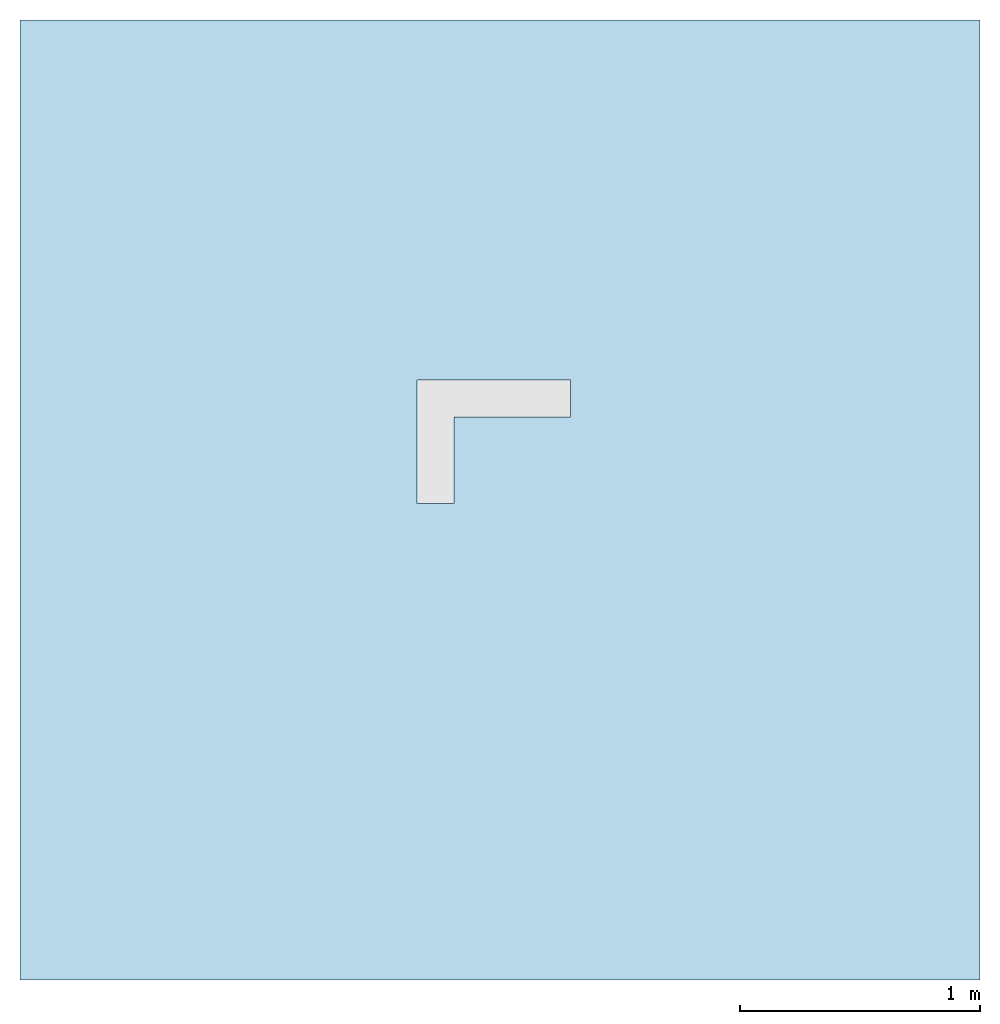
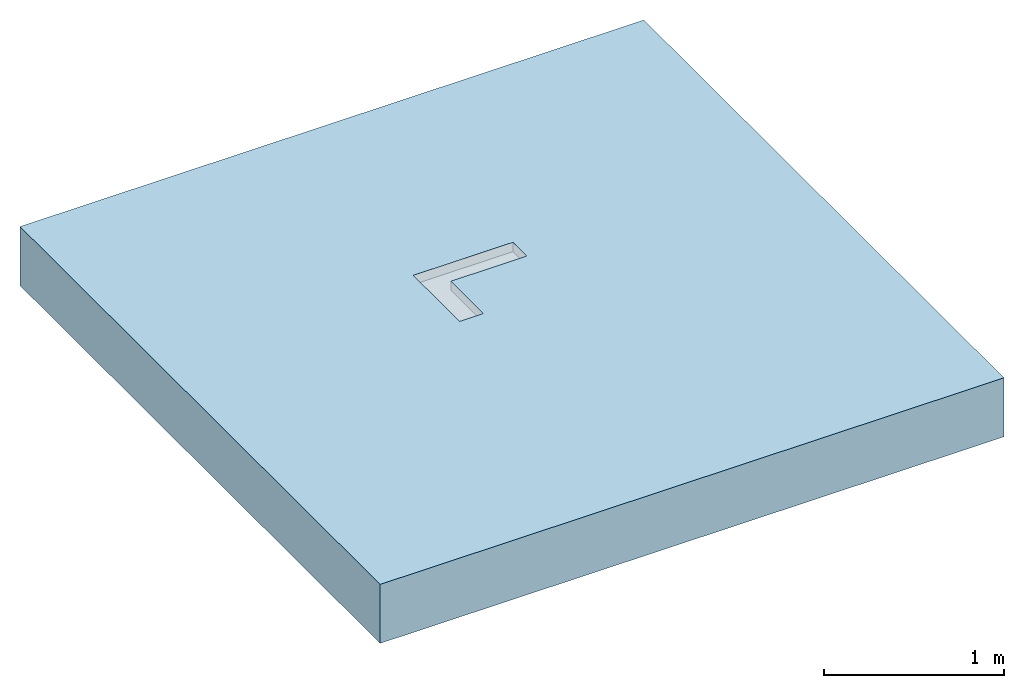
# One storey, incomplete: 1 slab, 1 opening.
"""IFC2X3 building model written with IfcOpenShell, lengths in millimetres."""

from ifc_helpers import new_model, entity, si_unit, converted_unit, direction, frame, frame_2d, origin, place, context, subcontext, project, spatial, polyline, rectangle, outline, extrude, material, layer, layer_set, layer_usage, element, save


model = new_model("IFC2X3")

# Units and contexts
model_context = context("Model", 3, precision=1e-06, world=origin(), true_north=direction((2.0, 6.12303176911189e-17, 1.0)))
context_of_model = context(None, 3, precision=1e-06, world=origin(), true_north=direction((2.0, 6.12303176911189e-17, 1.0)))
body_context = subcontext(model_context, "Body", "Model", "MODEL_VIEW")
ifc_project = project(units=[si_unit("LENGTHUNIT", "METRE", prefix="MILLI"), si_unit("AREAUNIT", "SQUARE_METRE", prefix="MILLI"), si_unit("VOLUMEUNIT", "CUBIC_METRE", prefix="MILLI"), converted_unit("PLANEANGLEUNIT", "DEGREE", entity("IfcRatioMeasure", 0.0174532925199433), si_unit("PLANEANGLEUNIT", "RADIAN"), dimensions=[0, 0, 0, 0, 0, 0, 0]), si_unit("TIMEUNIT", "SECOND")], contexts=[model_context, context_of_model])

# Site, building, storey
site_placement = place(None, origin())
site = spatial("IfcSite", under=ifc_project, at=site_placement, Name="Default", CompositionType="ELEMENT")
building_placement = place(site_placement, origin())
building = spatial("IfcBuilding", under=site, at=building_placement, CompositionType="ELEMENT")
storey_placement = place(building_placement, origin())
storey = spatial("IfcBuildingStorey", under=building, at=storey_placement, Name="Level 1", CompositionType="ELEMENT", Elevation=0.0)

# Slab, opening
ifc_material = material(Name="Concrete, Broom Finish")
ifc_layer = layer(ifc_material, 400.0)
ifc_layer_set = layer_set([ifc_layer], Name="Floor:Generic Floor - 400mm")
ifc_layer_usage = layer_usage(ifc_layer_set, "AXIS3", "POSITIVE", 0.0)
slab_placement = place(storey_placement, origin())
slab = element("IfcSlab", 1, at=slab_placement, inside=storey, material=ifc_layer_usage, Name="Floor:Generic Floor - 400mm", ObjectType="Floor:Generic Floor - 400mm", PredefinedType="FLOOR", context=body_context, shape_type="SweptSolid", body=[
    extrude(rectangle(XDim=4000.0, YDim=4000.0, at=frame_2d((0.0, 0.0), x_axis=(0.0, -1.0))), frame((-42.176138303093, 0.318612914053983, 0.0), z_axis=(0.0, 0.0, -1.0), x_axis=(-1.0, 0.0, 0.0)), (0.0, 0.0, 1.0), 400.0),
])
opening_placement = place(slab_placement, origin())
element("IfcOpeningElement", 2, at=opening_placement, cuts=slab, ObjectType="Recess", context=body_context, shape_type="SweptSolid", body=[
    extrude(outline(polyline([(-291.666666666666, -111.0), (-291.666666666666, -264.0), (222.333333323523, -264.0), (222.333333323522, 375.0), (69.3333333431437, 375.0), (69.3333333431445, -111.0), (-291.666666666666, -111.0)])), frame((-123.018981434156, 277.077343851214, -62.8000000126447), z_axis=(0.0, 0.0, -1.0), x_axis=(0.0, 1.0, 0.0)), (0.0, 0.0, -1.0), 62.800000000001),
])

save(model, "model.ifc")
